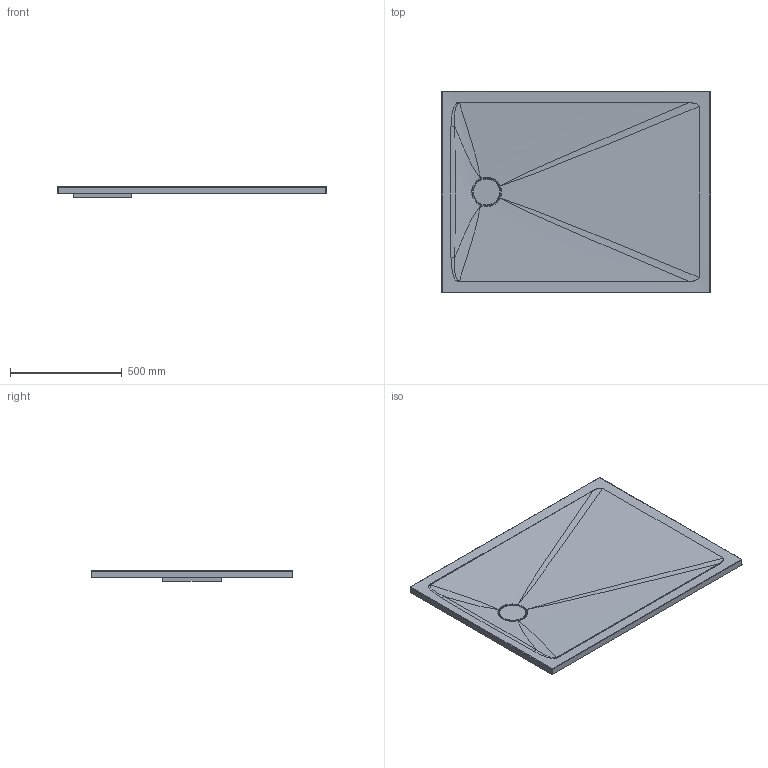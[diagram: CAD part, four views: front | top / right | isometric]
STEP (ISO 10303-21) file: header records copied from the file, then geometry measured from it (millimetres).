
FILE_DESCRIPTION (( 'STEP AP214' ), '1' );
FILE_NAME ('ARON 120x90.STEP', '2024-05-13T11:31:55', ( '' ), ( '' ), 'SwSTEP 2.0', 'SolidWorks 2021', '' );
FILE_SCHEMA (( 'AUTOMOTIVE_DESIGN' ));
Length unit declared in the file: millimetre
Products named in the file (1): ARON 120x90
Bounding box: 1200 x 900 x 48 mm (x, y, z)
Volume: 26909575.2 mm3; surface area: 2324702.1 mm2
Topology: 2 solids, 2 shells, 75 faces, 172 edges, 103 vertices
Faces by surface type: bspline 43, plane 17, cylinder 15
Full cylindrical faces by diameter (mm): 9 x3, 90 x1, 119 x1
Entity records: 12929 total; most frequent: CARTESIAN_POINT 11543, ORIENTED_EDGE 320, DIRECTION 162, EDGE_CURVE 160, VERTEX_POINT 103, B_SPLINE_CURVE_WITH_KNOTS 95, EDGE_LOOP 91, FACE_OUTER_BOUND 83
